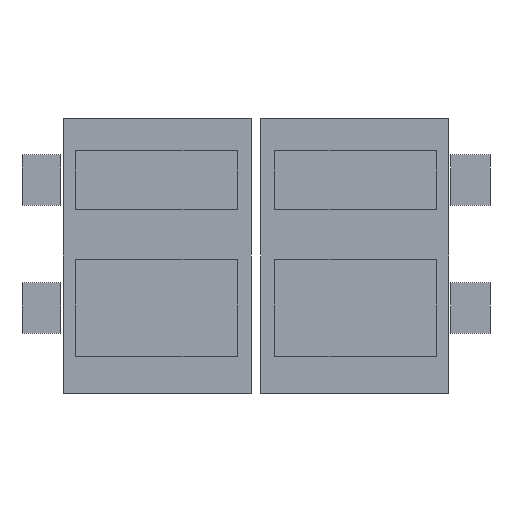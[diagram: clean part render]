
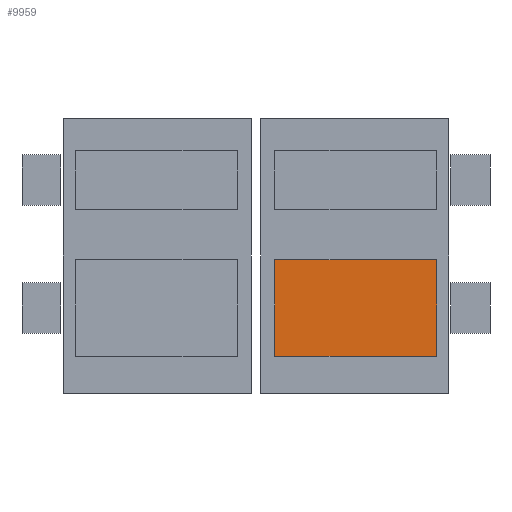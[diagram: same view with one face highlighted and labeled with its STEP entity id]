
A CAD part, left-side view. The second image highlights one B-rep face of the part: STEP entity #9959.
In plain terms, the highlighted planar face has unit normal (-1, 0, 0).
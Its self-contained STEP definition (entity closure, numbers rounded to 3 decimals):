
#9959 = ADVANCED_FACE('',(#9960),#9974,.F.);
#9960 = FACE_BOUND('',#9961,.F.);
#9961 = EDGE_LOOP('',(#9962,#9997,#10025,#10053));
#9962 = ORIENTED_EDGE('',*,*,#9963,.F.);
#9963 = EDGE_CURVE('',#9964,#9966,#9968,.T.);
#9964 = VERTEX_POINT('',#9965);
#9965 = CARTESIAN_POINT('',(-182.,-787.4,262.));
#9966 = VERTEX_POINT('',#9967);
#9967 = CARTESIAN_POINT('',(-182.,-787.4,683.));
#9968 = SURFACE_CURVE('',#9969,(#9973,#9985),.PCURVE_S1.);
#9969 = LINE('',#9970,#9971);
#9970 = CARTESIAN_POINT('',(-182.,-787.4,262.));
#9971 = VECTOR('',#9972,1.);
#9972 = DIRECTION('',(0.,0.,1.));
#9973 = PCURVE('',#9974,#9979);
#9974 = PLANE('',#9975);
#9975 = AXIS2_PLACEMENT_3D('',#9976,#9977,#9978);
#9976 = CARTESIAN_POINT('',(-182.,-787.4,262.));
#9977 = DIRECTION('',(1.,0.,-0.));
#9978 = DIRECTION('',(0.,0.,1.));
#9979 = DEFINITIONAL_REPRESENTATION('',(#9980),#9984);
#9980 = LINE('',#9981,#9982);
#9981 = CARTESIAN_POINT('',(0.,0.));
#9982 = VECTOR('',#9983,1.);
#9983 = DIRECTION('',(1.,0.));
#9984 = ( GEOMETRIC_REPRESENTATION_CONTEXT(2) 
PARAMETRIC_REPRESENTATION_CONTEXT() REPRESENTATION_CONTEXT('2D SPACE',''
  ) );
#9985 = PCURVE('',#9986,#9991);
#9986 = PLANE('',#9987);
#9987 = AXIS2_PLACEMENT_3D('',#9988,#9989,#9990);
#9988 = CARTESIAN_POINT('',(-182.,-787.4,262.));
#9989 = DIRECTION('',(-0.,1.,0.));
#9990 = DIRECTION('',(0.,0.,1.));
#9991 = DEFINITIONAL_REPRESENTATION('',(#9992),#9996);
#9992 = LINE('',#9993,#9994);
#9993 = CARTESIAN_POINT('',(0.,0.));
#9994 = VECTOR('',#9995,1.);
#9995 = DIRECTION('',(1.,0.));
#9996 = ( GEOMETRIC_REPRESENTATION_CONTEXT(2) 
PARAMETRIC_REPRESENTATION_CONTEXT() REPRESENTATION_CONTEXT('2D SPACE',''
  ) );
#9997 = ORIENTED_EDGE('',*,*,#9998,.T.);
#9998 = EDGE_CURVE('',#9964,#9999,#10001,.T.);
#9999 = VERTEX_POINT('',#10000);
#10000 = CARTESIAN_POINT('',(-182.,-81.4,262.));
#10001 = SURFACE_CURVE('',#10002,(#10006,#10013),.PCURVE_S1.);
#10002 = LINE('',#10003,#10004);
#10003 = CARTESIAN_POINT('',(-182.,-787.4,262.));
#10004 = VECTOR('',#10005,1.);
#10005 = DIRECTION('',(-0.,1.,0.));
#10006 = PCURVE('',#9974,#10007);
#10007 = DEFINITIONAL_REPRESENTATION('',(#10008),#10012);
#10008 = LINE('',#10009,#10010);
#10009 = CARTESIAN_POINT('',(0.,0.));
#10010 = VECTOR('',#10011,1.);
#10011 = DIRECTION('',(0.,-1.));
#10012 = ( GEOMETRIC_REPRESENTATION_CONTEXT(2) 
PARAMETRIC_REPRESENTATION_CONTEXT() REPRESENTATION_CONTEXT('2D SPACE',''
  ) );
#10013 = PCURVE('',#10014,#10019);
#10014 = PLANE('',#10015);
#10015 = AXIS2_PLACEMENT_3D('',#10016,#10017,#10018);
#10016 = CARTESIAN_POINT('',(-182.,-787.4,262.));
#10017 = DIRECTION('',(0.,0.,1.));
#10018 = DIRECTION('',(1.,0.,-0.));
#10019 = DEFINITIONAL_REPRESENTATION('',(#10020),#10024);
#10020 = LINE('',#10021,#10022);
#10021 = CARTESIAN_POINT('',(0.,0.));
#10022 = VECTOR('',#10023,1.);
#10023 = DIRECTION('',(0.,1.));
#10024 = ( GEOMETRIC_REPRESENTATION_CONTEXT(2) 
PARAMETRIC_REPRESENTATION_CONTEXT() REPRESENTATION_CONTEXT('2D SPACE',''
  ) );
#10025 = ORIENTED_EDGE('',*,*,#10026,.T.);
#10026 = EDGE_CURVE('',#9999,#10027,#10029,.T.);
#10027 = VERTEX_POINT('',#10028);
#10028 = CARTESIAN_POINT('',(-182.,-81.4,683.));
#10029 = SURFACE_CURVE('',#10030,(#10034,#10041),.PCURVE_S1.);
#10030 = LINE('',#10031,#10032);
#10031 = CARTESIAN_POINT('',(-182.,-81.4,262.));
#10032 = VECTOR('',#10033,1.);
#10033 = DIRECTION('',(0.,0.,1.));
#10034 = PCURVE('',#9974,#10035);
#10035 = DEFINITIONAL_REPRESENTATION('',(#10036),#10040);
#10036 = LINE('',#10037,#10038);
#10037 = CARTESIAN_POINT('',(0.,-706.));
#10038 = VECTOR('',#10039,1.);
#10039 = DIRECTION('',(1.,0.));
#10040 = ( GEOMETRIC_REPRESENTATION_CONTEXT(2) 
PARAMETRIC_REPRESENTATION_CONTEXT() REPRESENTATION_CONTEXT('2D SPACE',''
  ) );
#10041 = PCURVE('',#10042,#10047);
#10042 = PLANE('',#10043);
#10043 = AXIS2_PLACEMENT_3D('',#10044,#10045,#10046);
#10044 = CARTESIAN_POINT('',(-182.,-81.4,262.));
#10045 = DIRECTION('',(-0.,1.,0.));
#10046 = DIRECTION('',(0.,0.,1.));
#10047 = DEFINITIONAL_REPRESENTATION('',(#10048),#10052);
#10048 = LINE('',#10049,#10050);
#10049 = CARTESIAN_POINT('',(0.,0.));
#10050 = VECTOR('',#10051,1.);
#10051 = DIRECTION('',(1.,0.));
#10052 = ( GEOMETRIC_REPRESENTATION_CONTEXT(2) 
PARAMETRIC_REPRESENTATION_CONTEXT() REPRESENTATION_CONTEXT('2D SPACE',''
  ) );
#10053 = ORIENTED_EDGE('',*,*,#10054,.F.);
#10054 = EDGE_CURVE('',#9966,#10027,#10055,.T.);
#10055 = SURFACE_CURVE('',#10056,(#10060,#10067),.PCURVE_S1.);
#10056 = LINE('',#10057,#10058);
#10057 = CARTESIAN_POINT('',(-182.,-787.4,683.));
#10058 = VECTOR('',#10059,1.);
#10059 = DIRECTION('',(-0.,1.,0.));
#10060 = PCURVE('',#9974,#10061);
#10061 = DEFINITIONAL_REPRESENTATION('',(#10062),#10066);
#10062 = LINE('',#10063,#10064);
#10063 = CARTESIAN_POINT('',(421.,0.));
#10064 = VECTOR('',#10065,1.);
#10065 = DIRECTION('',(0.,-1.));
#10066 = ( GEOMETRIC_REPRESENTATION_CONTEXT(2) 
PARAMETRIC_REPRESENTATION_CONTEXT() REPRESENTATION_CONTEXT('2D SPACE',''
  ) );
#10067 = PCURVE('',#10068,#10073);
#10068 = PLANE('',#10069);
#10069 = AXIS2_PLACEMENT_3D('',#10070,#10071,#10072);
#10070 = CARTESIAN_POINT('',(-182.,-787.4,683.));
#10071 = DIRECTION('',(0.,0.,1.));
#10072 = DIRECTION('',(1.,0.,-0.));
#10073 = DEFINITIONAL_REPRESENTATION('',(#10074),#10078);
#10074 = LINE('',#10075,#10076);
#10075 = CARTESIAN_POINT('',(0.,0.));
#10076 = VECTOR('',#10077,1.);
#10077 = DIRECTION('',(0.,1.));
#10078 = ( GEOMETRIC_REPRESENTATION_CONTEXT(2) 
PARAMETRIC_REPRESENTATION_CONTEXT() REPRESENTATION_CONTEXT('2D SPACE',''
  ) );
